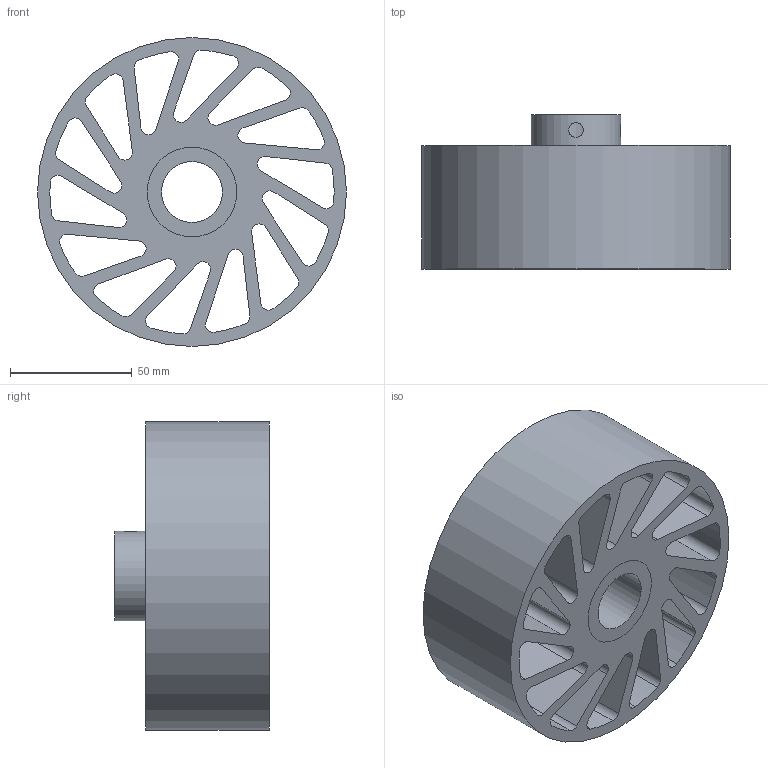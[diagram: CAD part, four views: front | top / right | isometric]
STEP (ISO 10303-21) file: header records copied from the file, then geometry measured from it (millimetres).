
FILE_DESCRIPTION(/* description */ (''),/* implementation_level */ '2;1');
FILE_NAME(/* name */ 'NCWM-530-XXX-YYY.stp',/* time_stamp */ '2023-02-02T16:36:13-06:00',/* author */ ('AG'),/* organization */ ('Meridian Laboratory'),/* preprocessor_version */ 'ST-DEVELOPER v18.1',/* originating_system */ 'Autodesk Inventor 2022',/* authorisation */ '');
FILE_SCHEMA (('AUTOMOTIVE_DESIGN { 1 0 10303 214 3 1 1 }'));
Length unit declared in the file: millimetre
Products named in the file (1): NCWM-440
Bounding box: 127 x 63.5 x 127 mm (x, y, z)
Volume: 342796 mm3; surface area: 113321.6 mm2
Topology: 2 solids, 2 shells, 94 faces, 276 edges, 186 vertices
Faces by surface type: cylinder 62, plane 32
Full cylindrical faces by diameter (mm): 6 x2, 25.025 x1, 36.83 x2, 127 x1
Entity records: 3528 total; most frequent: CARTESIAN_POINT 697, DIRECTION 576, ORIENTED_EDGE 552, EDGE_CURVE 276, AXIS2_PLACEMENT_3D 215, VERTEX_POINT 186, LINE 146, VECTOR 146
